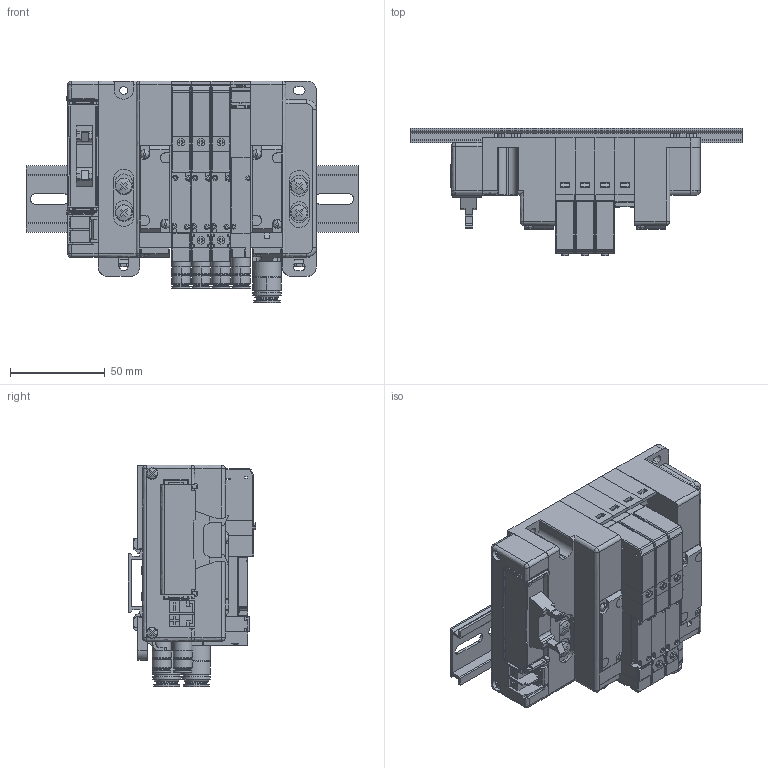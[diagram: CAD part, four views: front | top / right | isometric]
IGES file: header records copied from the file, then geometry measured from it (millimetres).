
Start section: ------------------------------------------------------------------------
Global section: file name: D:\ICADMX\tmp\trans3d_spg\CVICAD02.2536.F10M4XPJ-JR-F10x-DN_14653.igs; native system: spGate; preprocessor: ver12.6.6; author: Unknown; organization: Unknown; date: 200901.145553; units: millimetre
Bounding box: 175 x 67 x 117 mm (x, y, z)
Volume: 499522.9 mm3; surface area: 166886.7 mm2
Topology: 39 solids, 39 shells, 3979 faces, 10790 edges, 7443 vertices
Faces by surface type: bspline 3979
